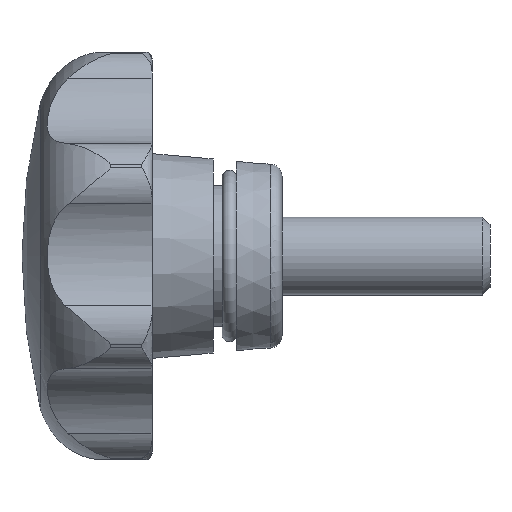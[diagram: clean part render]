
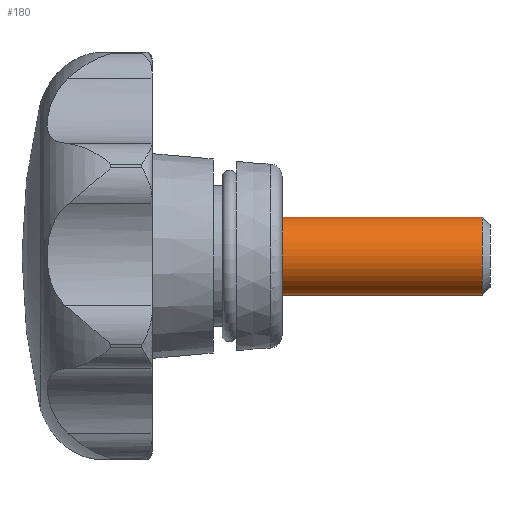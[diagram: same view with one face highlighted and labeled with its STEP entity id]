
A CAD part, left-side view. The second image highlights one B-rep face of the part: STEP entity #180.
In plain terms, the highlighted cylindrical face has radius 3 mm (diameter 6 mm), a full revolution.
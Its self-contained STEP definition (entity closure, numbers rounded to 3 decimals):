
#180 = ADVANCED_FACE( '', ( #345, #346 ), #347, .T. );
#345 = FACE_OUTER_BOUND( '', #675, .T. );
#346 = FACE_OUTER_BOUND( '', #676, .T. );
#347 = CYLINDRICAL_SURFACE( '', #677, 3. );
#675 = EDGE_LOOP( '', ( #1036 ) );
#676 = EDGE_LOOP( '', ( #1037 ) );
#677 = AXIS2_PLACEMENT_3D( '', #1038, #1039, #1040 );
#1036 = ORIENTED_EDGE( '', *, *, #2051, .F. );
#1037 = ORIENTED_EDGE( '', *, *, #2052, .T. );
#1038 = CARTESIAN_POINT( '', ( 0., -16., 0. ) );
#1039 = DIRECTION( '', ( 0., 1., 0. ) );
#1040 = DIRECTION( '', ( 0., 0., -1. ) );
#2051 = EDGE_CURVE( '', #2398, #2398, #2399, .T. );
#2052 = EDGE_CURVE( '', #2400, #2400, #2401, .T. );
#2398 = VERTEX_POINT( '', #3057 );
#2399 = CIRCLE( '', #3058, 3. );
#2400 = VERTEX_POINT( '', #3059 );
#2401 = CIRCLE( '', #3060, 3. );
#3057 = CARTESIAN_POINT( '', ( 0., -15.387, -3. ) );
#3058 = AXIS2_PLACEMENT_3D( '', #4699, #4700, #4701 );
#3059 = CARTESIAN_POINT( '', ( 0., 0., -3. ) );
#3060 = AXIS2_PLACEMENT_3D( '', #4702, #4703, #4704 );
#4699 = CARTESIAN_POINT( '', ( 0., -15.387, 0. ) );
#4700 = DIRECTION( '', ( 0., -1., 0. ) );
#4701 = DIRECTION( '', ( 0., 0., -1. ) );
#4702 = CARTESIAN_POINT( '', ( 0., 0., 0. ) );
#4703 = DIRECTION( '', ( 0., -1., 0. ) );
#4704 = DIRECTION( '', ( 0., 0., -1. ) );
